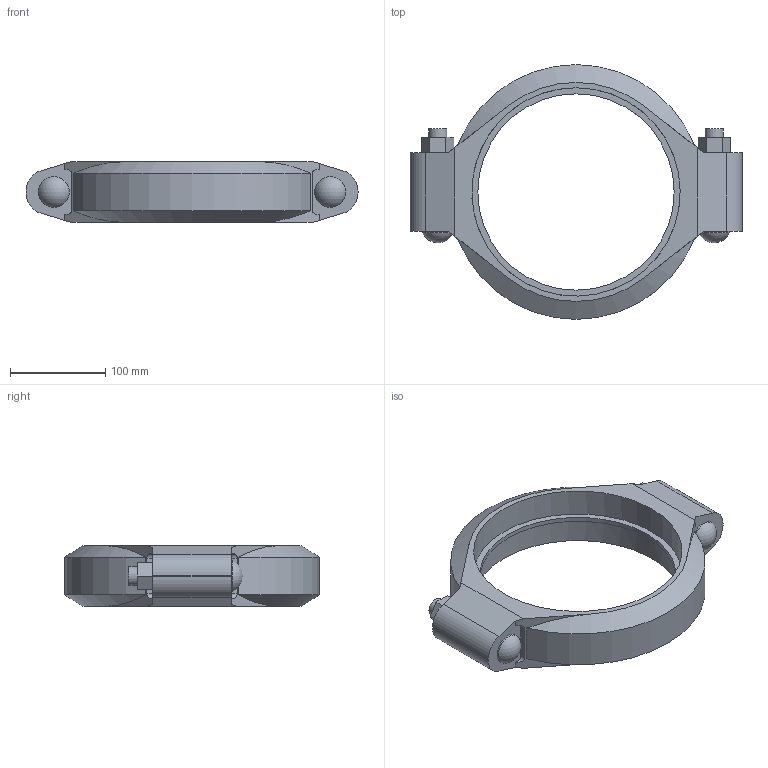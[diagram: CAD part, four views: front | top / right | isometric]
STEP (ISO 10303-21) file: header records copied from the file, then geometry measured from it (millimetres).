
FILE_DESCRIPTION(/* description */ ('VIC COUPLING STYLE 07 RIGID','CAx-IF Rec.Pracs.---Representation and Presentation of Product Manufacturing Information (PMI)---4.0---2014-10-13'),/* implementation_level */ '2;1');
FILE_NAME(/* name */ 'C:\Users\kkamble\Desktop\KIRAN\2022\Updated Couplings\007\Victaulic_IPS_Coupling Rigid_Style 07 (OGS)\Victaulic_IPS_Coupling Rigid_Style 07 (OGS)_8 (200).stp',/* time_stamp */ '2022-03-25T09:57:04+05:00',/* author */ ('jheald'),/* organization */ ('Victaulic'),/* preprocessor_version */ 'ST-DEVELOPER v17.2',/* originating_system */ 'Autodesk Inventor 2019',/* authorisation */ '');
FILE_SCHEMA (('AP242_MANAGED_MODEL_BASED_3D_ENGINEERING_MIM_LF { 1 0 10303 442 1 1 4 }'));
Length unit declared in the file: inch
Products named in the file (1): 07-08.0
Bounding box: 349 x 267.72 x 63.75 mm (x, y, z)
Volume: 1404656.8 mm3; surface area: 181046.7 mm2
Topology: 1 solids, 3 shells, 87 faces, 239 edges, 162 vertices
Faces by surface type: plane 54, cylinder 27, cone 4, sphere 2
Full cylindrical faces by diameter (mm): 19.05 x4, 32.537 x2, 206.375 x1, 219.075 x2
Entity records: 3036 total; most frequent: CARTESIAN_POINT 522, DIRECTION 507, ORIENTED_EDGE 478, EDGE_CURVE 239, AXIS2_PLACEMENT_3D 175, VERTEX_POINT 162, LINE 157, VECTOR 157
